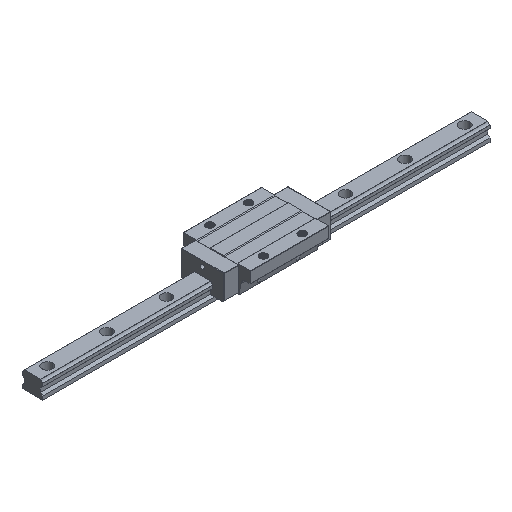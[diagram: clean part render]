
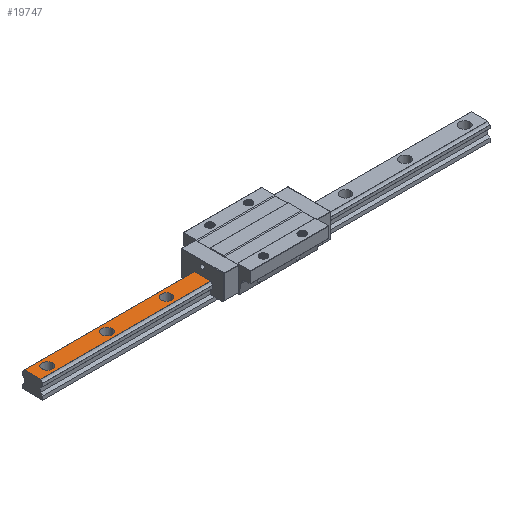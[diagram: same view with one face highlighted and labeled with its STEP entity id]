
A CAD part, isometric view. The second image highlights one B-rep face of the part: STEP entity #19747.
In plain terms, the highlighted planar face has unit normal (0, 0, 1).
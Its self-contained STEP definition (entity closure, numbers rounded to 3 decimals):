
#51 = CARTESIAN_POINT ( 'NONE',  ( -280., 0., 23. ) ) ;
#138 = VERTEX_POINT ( 'NONE', #21623 ) ;
#172 = DIRECTION ( 'NONE',  ( -1., 0., 0. ) ) ;
#217 = DIRECTION ( 'NONE',  ( 0., 0., -1. ) ) ;
#227 = AXIS2_PLACEMENT_3D ( 'NONE', #786, #16028, #12073 ) ;
#442 = CARTESIAN_POINT ( 'NONE',  ( -120., 0., 23. ) ) ;
#746 = DIRECTION ( 'NONE',  ( -1., 0., 0. ) ) ;
#786 = CARTESIAN_POINT ( 'NONE',  ( 300., 0., 23. ) ) ;
#1047 = VERTEX_POINT ( 'NONE', #2485 ) ;
#1090 = CARTESIAN_POINT ( 'NONE',  ( -300., 0., 23. ) ) ;
#1151 = ORIENTED_EDGE ( 'NONE', *, *, #8198, .T. ) ;
#1157 = CARTESIAN_POINT ( 'NONE',  ( -71.75, -11.035, 23. ) ) ;
#1665 = ORIENTED_EDGE ( 'NONE', *, *, #8448, .T. ) ;
#2210 = AXIS2_PLACEMENT_3D ( 'NONE', #24428, #6984, #24188 ) ;
#2485 = CARTESIAN_POINT ( 'NONE',  ( -127., 0., 23. ) ) ;
#2600 = EDGE_CURVE ( 'NONE', #24945, #16365, #18831, .T. ) ;
#3195 = CIRCLE ( 'NONE', #20665, 7. ) ;
#4929 = CARTESIAN_POINT ( 'NONE',  ( -120., 0., 23. ) ) ;
#5232 = DIRECTION ( 'NONE',  ( -1., 0., 0. ) ) ;
#5568 = EDGE_LOOP ( 'NONE', ( #22591, #1665 ) ) ;
#5650 = VECTOR ( 'NONE', #20398, 1000. ) ;
#5730 = CARTESIAN_POINT ( 'NONE',  ( 300., -11.035, 23. ) ) ;
#5832 = VECTOR ( 'NONE', #15261, 1000. ) ;
#6708 = DIRECTION ( 'NONE',  ( 0., 0., -1. ) ) ;
#6984 = DIRECTION ( 'NONE',  ( 0., 0., -1. ) ) ;
#7022 = AXIS2_PLACEMENT_3D ( 'NONE', #4929, #6708, #11015 ) ;
#7414 = CIRCLE ( 'NONE', #7022, 7. ) ;
#7898 = EDGE_CURVE ( 'NONE', #24490, #12057, #3195, .T. ) ;
#7900 = CIRCLE ( 'NONE', #18068, 7. ) ;
#7998 = ORIENTED_EDGE ( 'NONE', *, *, #7898, .T. ) ;
#8198 = EDGE_CURVE ( 'NONE', #138, #24945, #18497, .T. ) ;
#8448 = EDGE_CURVE ( 'NONE', #15062, #1047, #22712, .T. ) ;
#8627 = EDGE_CURVE ( 'NONE', #18009, #14033, #21902, .T. ) ;
#9105 = EDGE_CURVE ( 'NONE', #18461, #16365, #12618, .T. ) ;
#9152 = CARTESIAN_POINT ( 'NONE',  ( -71.75, -11.035, 23. ) ) ;
#9762 = EDGE_CURVE ( 'NONE', #12057, #24490, #13142, .T. ) ;
#10100 = AXIS2_PLACEMENT_3D ( 'NONE', #14756, #24693, #5232 ) ;
#10378 = ORIENTED_EDGE ( 'NONE', *, *, #12680, .T. ) ;
#10511 = AXIS2_PLACEMENT_3D ( 'NONE', #442, #14147, #15935 ) ;
#11015 = DIRECTION ( 'NONE',  ( -1., 0., 0. ) ) ;
#11207 = EDGE_CURVE ( 'NONE', #14033, #18009, #7900, .T. ) ;
#11487 = CARTESIAN_POINT ( 'NONE',  ( -273., 0., 23. ) ) ;
#12036 = CARTESIAN_POINT ( 'NONE',  ( 300., 11.035, 23. ) ) ;
#12057 = VERTEX_POINT ( 'NONE', #21947 ) ;
#12073 = DIRECTION ( 'NONE',  ( 0., -1., 0. ) ) ;
#12618 = LINE ( 'NONE', #9152, #5650 ) ;
#12680 = EDGE_CURVE ( 'NONE', #18461, #138, #17641, .T. ) ;
#12688 = EDGE_LOOP ( 'NONE', ( #23821, #14195 ) ) ;
#13142 = CIRCLE ( 'NONE', #2210, 7. ) ;
#13483 = CARTESIAN_POINT ( 'NONE',  ( -113., 0., 23. ) ) ;
#14033 = VERTEX_POINT ( 'NONE', #22230 ) ;
#14147 = DIRECTION ( 'NONE',  ( 0., 0., -1. ) ) ;
#14195 = ORIENTED_EDGE ( 'NONE', *, *, #8627, .T. ) ;
#14680 = EDGE_LOOP ( 'NONE', ( #24219, #20545, #10378, #1151 ) ) ;
#14756 = CARTESIAN_POINT ( 'NONE',  ( -280., 0., 23. ) ) ;
#15030 = DIRECTION ( 'NONE',  ( 0., -1., 0. ) ) ;
#15062 = VERTEX_POINT ( 'NONE', #13483 ) ;
#15261 = DIRECTION ( 'NONE',  ( 1., 0., 0. ) ) ;
#15935 = DIRECTION ( 'NONE',  ( -1., 0., 0. ) ) ;
#16028 = DIRECTION ( 'NONE',  ( 0., 0., -1. ) ) ;
#16365 = VERTEX_POINT ( 'NONE', #1157 ) ;
#17501 = CARTESIAN_POINT ( 'NONE',  ( -71.75, 11.035, 23. ) ) ;
#17641 = LINE ( 'NONE', #12036, #20623 ) ;
#17810 = FACE_BOUND ( 'NONE', #25111, .T. ) ;
#18009 = VERTEX_POINT ( 'NONE', #11487 ) ;
#18068 = AXIS2_PLACEMENT_3D ( 'NONE', #51, #21534, #172 ) ;
#18461 = VERTEX_POINT ( 'NONE', #17501 ) ;
#18497 = LINE ( 'NONE', #1090, #24330 ) ;
#18831 = LINE ( 'NONE', #5730, #5832 ) ;
#18870 = CARTESIAN_POINT ( 'NONE',  ( -207., 0., 23. ) ) ;
#19412 = CARTESIAN_POINT ( 'NONE',  ( -200., 0., 23. ) ) ;
#19728 = FACE_OUTER_BOUND ( 'NONE', #14680, .T. ) ;
#19747 = ADVANCED_FACE ( 'NONE', ( #21769, #17810, #23924, #19728 ), #21635, .F. ) ;
#20217 = EDGE_CURVE ( 'NONE', #1047, #15062, #7414, .T. ) ;
#20398 = DIRECTION ( 'NONE',  ( 0., -1., 0. ) ) ;
#20545 = ORIENTED_EDGE ( 'NONE', *, *, #9105, .F. ) ;
#20623 = VECTOR ( 'NONE', #746, 1000. ) ;
#20665 = AXIS2_PLACEMENT_3D ( 'NONE', #19412, #217, #21071 ) ;
#21071 = DIRECTION ( 'NONE',  ( -1., 0., 0. ) ) ;
#21254 = ORIENTED_EDGE ( 'NONE', *, *, #9762, .T. ) ;
#21534 = DIRECTION ( 'NONE',  ( 0., 0., -1. ) ) ;
#21623 = CARTESIAN_POINT ( 'NONE',  ( -300., 11.035, 23. ) ) ;
#21635 = PLANE ( 'NONE',  #227 ) ;
#21769 = FACE_BOUND ( 'NONE', #12688, .T. ) ;
#21902 = CIRCLE ( 'NONE', #10100, 7. ) ;
#21947 = CARTESIAN_POINT ( 'NONE',  ( -193., 0., 23. ) ) ;
#22230 = CARTESIAN_POINT ( 'NONE',  ( -287., 0., 23. ) ) ;
#22591 = ORIENTED_EDGE ( 'NONE', *, *, #20217, .T. ) ;
#22712 = CIRCLE ( 'NONE', #10511, 7. ) ;
#23821 = ORIENTED_EDGE ( 'NONE', *, *, #11207, .T. ) ;
#23924 = FACE_BOUND ( 'NONE', #5568, .T. ) ;
#24053 = CARTESIAN_POINT ( 'NONE',  ( -300., -11.035, 23. ) ) ;
#24188 = DIRECTION ( 'NONE',  ( -1., 0., 0. ) ) ;
#24219 = ORIENTED_EDGE ( 'NONE', *, *, #2600, .T. ) ;
#24330 = VECTOR ( 'NONE', #15030, 1000. ) ;
#24428 = CARTESIAN_POINT ( 'NONE',  ( -200., 0., 23. ) ) ;
#24490 = VERTEX_POINT ( 'NONE', #18870 ) ;
#24693 = DIRECTION ( 'NONE',  ( 0., 0., -1. ) ) ;
#24945 = VERTEX_POINT ( 'NONE', #24053 ) ;
#25111 = EDGE_LOOP ( 'NONE', ( #7998, #21254 ) ) ;
